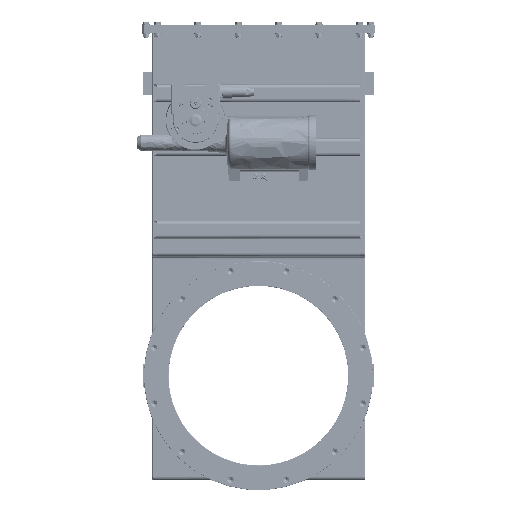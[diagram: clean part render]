
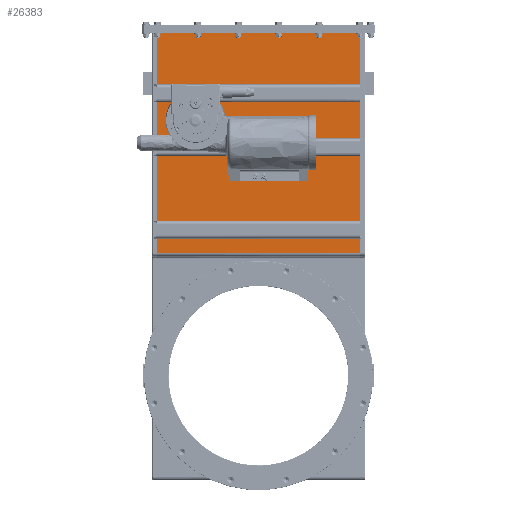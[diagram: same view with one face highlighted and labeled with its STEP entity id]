
A CAD part, top view. The second image highlights one B-rep face of the part: STEP entity #26383.
In plain terms, the highlighted free-form (B-spline) face has degree [1, 1] with [2, 2] control points.
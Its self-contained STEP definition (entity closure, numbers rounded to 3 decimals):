
#25629=CARTESIAN_POINT('V36',(-221.55,0.,
   -140.0));
#25630=VERTEX_POINT('V36',#25629);
#25636=CARTESIAN_POINT('E54',(-221.55,0.,
   -140.0));
#25637=CARTESIAN_POINT('E54',(-221.55,0.,
   -187.718));
#25638=CARTESIAN_POINT('E54',(-180.225,0.,
   -163.859));
#25639=CARTESIAN_POINT('E54',(-138.9,0.,
   -140.));
#25640=CARTESIAN_POINT('E54',(-180.225,0.,
   -116.141));
#25641=CARTESIAN_POINT('E54',(-221.55,0.,
   -92.282));
#25642=CARTESIAN_POINT('E54',(-221.55,0.,
   -140.0));
#25650=(BOUNDED_CURVE()B_SPLINE_CURVE(2,(#25636,#25637,#25638,
   #25639,#25640,#25641,#25642),.CIRCULAR_ARC.,.T.,.U.)
   B_SPLINE_CURVE_WITH_KNOTS((3,2,2,3),(0.0,0.333,
   0.667,1.0),.UNSPECIFIED.)CURVE()
   GEOMETRIC_REPRESENTATION_ITEM()RATIONAL_B_SPLINE_CURVE((1.0,
   0.5,1.0,0.5,1.0,0.5,1.0)
   )REPRESENTATION_ITEM('E54'));
#25651=EDGE_CURVE('E54',#25630,#25630,#25650,.T.);
#25997=CARTESIAN_POINT('V17',(-489.,0.,
   -225.125));
#25998=VERTEX_POINT('V17',#25997);
#26012=CARTESIAN_POINT('V28',(-489.,0.,
   225.125));
#26013=VERTEX_POINT('V28',#26012);
#26014=CARTESIAN_POINT('E46',(-489.,0.,
   -225.125));
#26015=CARTESIAN_POINT('E46',(-489.,0.,
   225.125));
#26016=QUASI_UNIFORM_CURVE('E46',1,(#26014,#26015),.POLYLINE_FORM.,
   .F.,.U.);
#26017=EDGE_CURVE('E46',#25998,#26013,#26016,.T.);
#26071=CARTESIAN_POINT('V27',(0.0,0.0,225.125));
#26072=VERTEX_POINT('V27',#26071);
#26073=CARTESIAN_POINT('E31',(0.0,0.0,225.125));
#26074=CARTESIAN_POINT('E31',(-489.,0.,
   225.125));
#26075=QUASI_UNIFORM_CURVE('E31',1,(#26073,#26074),.POLYLINE_FORM.,
   .F.,.U.);
#26076=EDGE_CURVE('E31',#26072,#26013,#26075,.T.);
#26135=CARTESIAN_POINT('V18',(0.0,0.0,-225.125));
#26136=VERTEX_POINT('V18',#26135);
#26150=CARTESIAN_POINT('E43',(0.0,0.0,-225.125));
#26151=CARTESIAN_POINT('E43',(0.0,0.0,225.125));
#26152=QUASI_UNIFORM_CURVE('E43',1,(#26150,#26151),.POLYLINE_FORM.,
   .F.,.U.);
#26153=EDGE_CURVE('E43',#26136,#26072,#26152,.T.);
#26353=CARTESIAN_POINT('E20',(-489.,0.,
   -225.125));
#26354=CARTESIAN_POINT('E20',(0.0,0.0,-225.125));
#26355=QUASI_UNIFORM_CURVE('E20',1,(#26353,#26354),.POLYLINE_FORM.,
   .F.,.U.);
#26356=EDGE_CURVE('E20',#25998,#26136,#26355,.T.);
#26369=CARTESIAN_POINT('F20',(0.0,0.0,-225.125));
#26370=CARTESIAN_POINT('F20',(-489.,0.,
   -225.125));
#26371=CARTESIAN_POINT('F20',(0.0,0.0,225.125));
#26372=CARTESIAN_POINT('F20',(-489.,0.,
   225.125));
#26373=QUASI_UNIFORM_SURFACE('F20',1,1,((#26369,#26371),(#26370,
   #26372)),.PLANE_SURF.,.F.,.F.,.U.);
#26374=ORIENTED_EDGE('E20',*,*,#26356,.T.);
#26375=ORIENTED_EDGE('F9',*,*,#26153,.T.);
#26376=ORIENTED_EDGE('E31',*,*,#26076,.T.);
#26377=ORIENTED_EDGE('E46',*,*,#26017,.F.);
#26378=EDGE_LOOP('F20',(#26374,#26375,#26376,#26377));
#26379=FACE_OUTER_BOUND('F20',#26378,.F.);
#26380=ORIENTED_EDGE('E54',*,*,#25651,.F.);
#26381=EDGE_LOOP('F20',(#26380));
#26382=FACE_BOUND('F20',#26381,.F.);
#26383=ADVANCED_FACE('F20',(#26379,#26382),#26373,.T.);
